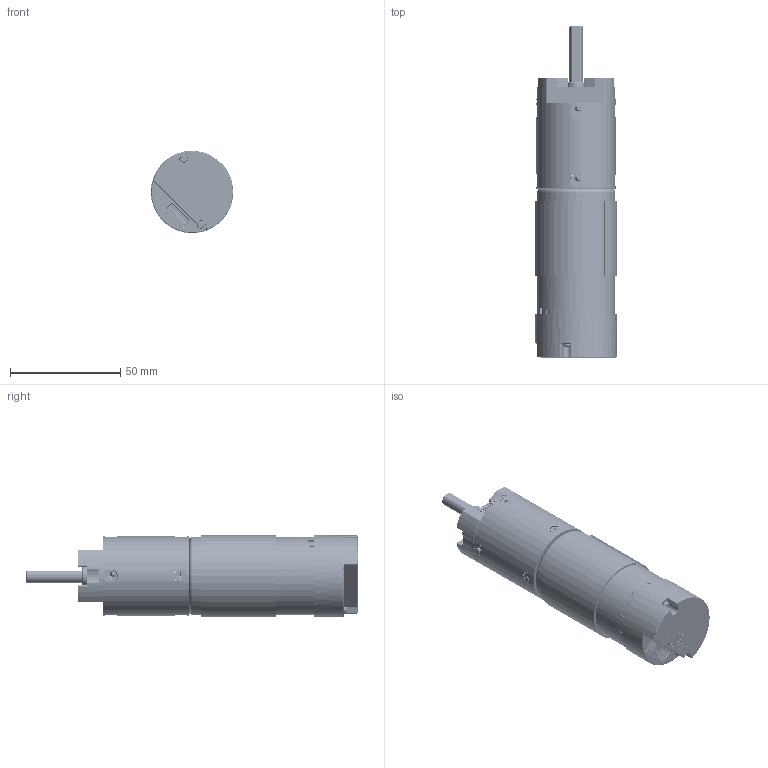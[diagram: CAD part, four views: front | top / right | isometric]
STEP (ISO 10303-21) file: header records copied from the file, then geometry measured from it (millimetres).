
FILE_DESCRIPTION(/* description */ (''),/* implementation_level */ '2;1');
FILE_NAME(/* name */ 'R:/Shared/Solidworks Files/(2) goBILDA/52 Gear Motors/5202 Series Gear Motors/In Warehouse/STEP Files/5202-2402-0051.step',/* time_stamp */ '2022-10-18T10:51:23-05:00',/* author */ (''),/* organization */ (''),/* preprocessor_version */ 'ST-DEVELOPER v19',/* originating_system */ 'Autodesk Translation Framework v11.7.0.108',/* authorisation */ '');
FILE_SCHEMA (('AUTOMOTIVE_DESIGN { 1 0 10303 214 3 1 1 }'));
Products named in the file (23): 5202-2402-0051; 5000-0002-0001; 5000-0002-0001 body; 5000-0002-0001 motor shield; 5000-0002-0001 encoder cap; endcap; JST-XH-4POS-VERT (1); Plastic (1); Pin (1); screw; base; screw_1; 99461A915_Phillips Rounded Head Thread-Forming Screws (1); 5000-0002-0001 motor shaft; 5102-0024-0051; 5102 Gearbox Base; 5102 Gearbox Barrel (3 stage, simple)_Gear Blank; 5102 Gearbox Face; 5102 Gearbox Shaft (23.5mm Length, Simple); 5102 Gearbox Snap Ring; 5102 Gearbox Barrel Screw (M3 x 8mm length Flat Head)_92010A118; 5102 Gearbox Bearing; 5102 Gearbox Base Mounting Screw M3 x 5mm length SHCS)_91290A110
Assembly tree (37 placements, depth 5):
  5202-2402-0051
    5000-0002-0001
      5000-0002-0001 body
      5000-0002-0001 motor shield
      5000-0002-0001 encoder cap
        endcap
        JST-XH-4POS-VERT (1)
          Plastic (1)
          Pin (1)  x4
        screw
          99461A915_Phillips Rounded Head Thread-Forming Screws (1)
        base
        screw_1
          99461A915_Phillips Rounded Head Thread-Forming Screws (1)
      5000-0002-0001 motor shaft
    5102-0024-0051
      5102 Gearbox Base
      5102 Gearbox Barrel (3 stage, simple)_Gear Blank
      5102 Gearbox Barrel Screw (M3 x 8mm length Flat Head)_92010A118  x8
      5102 Gearbox Face
      5102 Gearbox Bearing  x2
      5102 Gearbox Shaft (23.5mm Length, Simple)
      5102 Gearbox Snap Ring
      5102 Gearbox Base Mounting Screw M3 x 5mm length SHCS)_91290A110  x4
Bounding box: 37.46 x 150.75 x 37.48 mm (x, y, z)
Volume: 72988.8 mm3; surface area: 52732.6 mm2
Topology: 67 solids, 67 shells, 3428 faces, 8520 edges, 5301 vertices
Faces by surface type: cylinder 1237, plane 955, bspline 630, cone 299, sphere 160, torus 147
Full cylindrical faces by diameter (mm): 1.15 x10, 1.7 x2, 2 x14, 2.323 x88, 2.35 x100, 2.5 x57, 3 x264, 3.05 x8, 3.1 x4, 3.14 x1, 3.175 x1, 3.3 x77, 3.5 x2, 4 x74, 5.5 x4, 8 x2, 8.7 x1, 8.97 x2, 9 x2, 11.15 x4, 11.415 x4, 12.96 x1, 13 x1, 15 x1, 15.65 x4, 16.45 x4, 17 x4, 31.9 x2, 32 x2, 34 x1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
Entity records: 141799 total; most frequent: CARTESIAN_POINT 94683, ORIENTED_EDGE 10602, DIRECTION 8099, EDGE_CURVE 5301, VERTEX_POINT 3440, AXIS2_PLACEMENT_3D 2791, LINE 2517, VECTOR 2517
